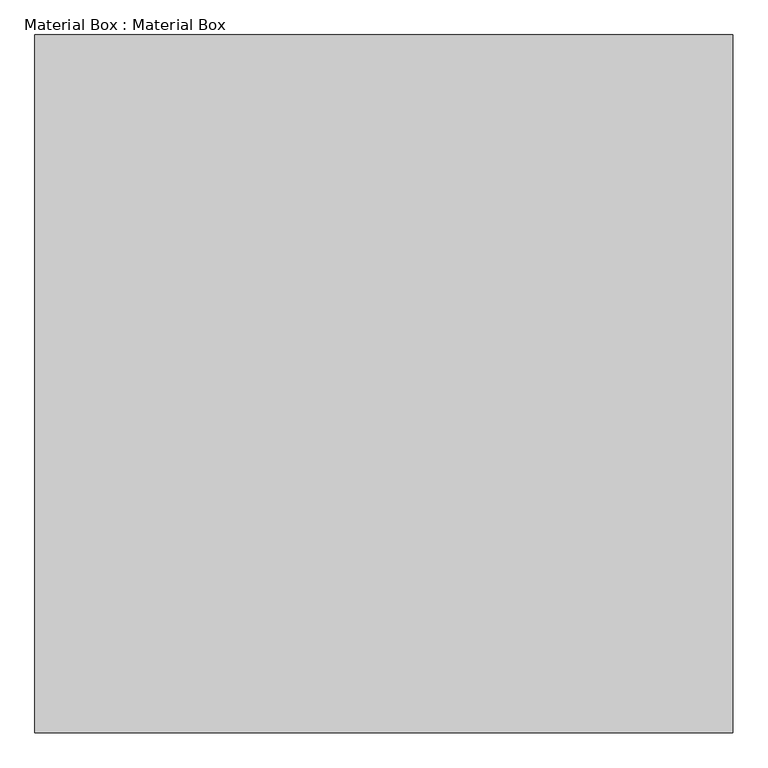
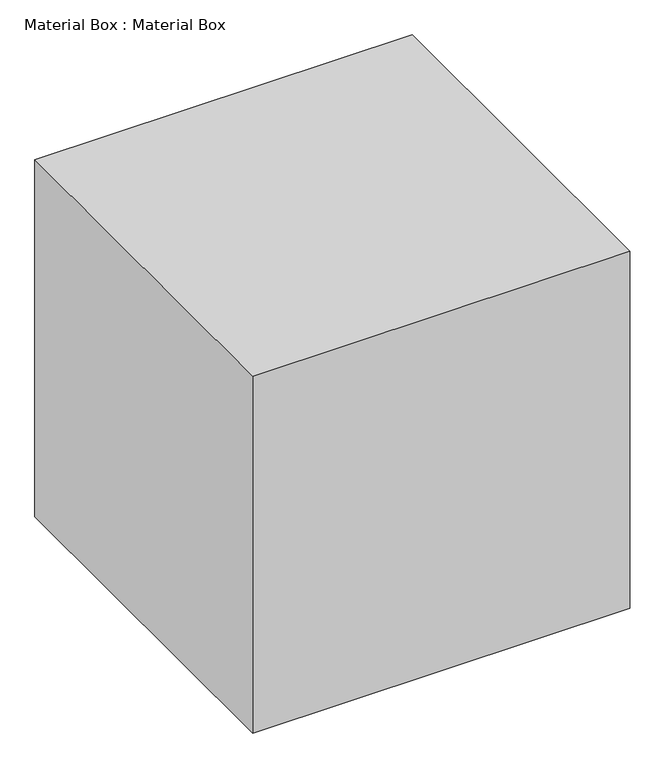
"""IFC4 building model written with IfcOpenShell, lengths in millimetres: proxy geometry, Material Box : Material Box."""

from ifc_helpers import new_model, si_unit, origin, origin_with_axes, place, context, project, spatial, polyline, outline, extrude, source, transform, mapped, element, save


def material_box_material_box_b1b65d76(model_context):
    return source(origin(), model_context, "Body", "SweptSolid", [
        extrude(outline(polyline([(-12108.9561438, 8001.6409453), (-12108.9561438, 7001.6409453), (-13108.9561438, 7001.6409453), (-13108.9561438, 8001.6409453), (-12108.9561438, 8001.6409453)])), origin_with_axes(), (0.0, 0.0, 1.0), 1000.0),
    ])


if __name__ == "__main__":
    model = new_model("IFC4")
    model_context = context("Model", 3, world=origin())
    ifc_project = project(units=[si_unit("LENGTHUNIT", "METRE", prefix="MILLI")], contexts=[model_context])
    site = spatial("IfcSite", under=ifc_project)
    building = spatial("IfcBuilding", under=site)
    placement = place(None, origin())
    material_box_material_box_shape = material_box_material_box_b1b65d76(model_context)
    element("IfcBuildingElementProxy", 1, Name="Material Box : Material Box", ObjectType="Material Box : Material Box", at=placement, inside=building, context=model_context, shape_type="MappedRepresentation", body=[
        mapped(material_box_material_box_shape, transform((0.0, 0.0, 0.0), x_axis=(1.0, 0.0, 0.0), y_axis=(0.0, 1.0, 0.0), z_axis=(0.0, 0.0, 1.0))),
    ])
    save(model, "model.ifc")
